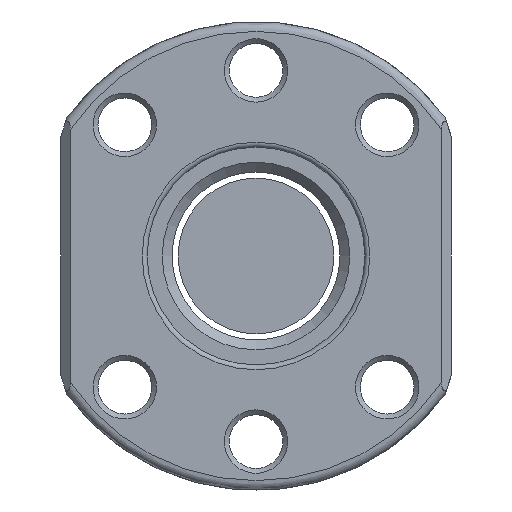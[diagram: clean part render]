
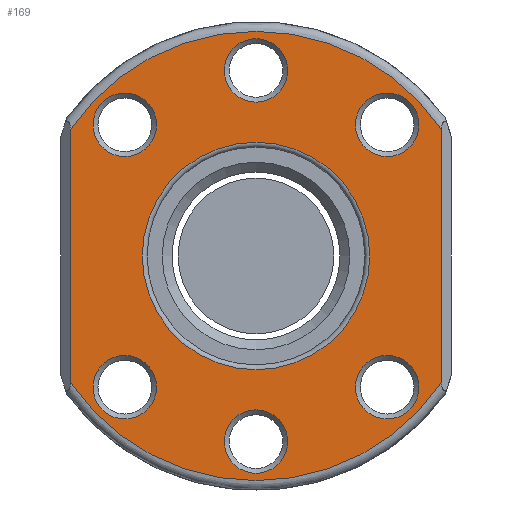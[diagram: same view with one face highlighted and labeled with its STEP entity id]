
A CAD part, front view. The second image highlights one B-rep face of the part: STEP entity #169.
In plain terms, the highlighted planar face has unit normal (0, -1, 0).
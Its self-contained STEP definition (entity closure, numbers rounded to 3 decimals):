
#62=LINE('',#1155,#86);
#63=LINE('',#1159,#87);
#86=VECTOR('',#936,1.);
#87=VECTOR('',#939,1.);
#132=PLANE('',#809);
#169=ADVANCED_FACE('',(#240,#241,#242,#243,#244,#245,#246,#247),#132,.T.);
#240=FACE_BOUND('',#320,.T.);
#241=FACE_BOUND('',#321,.T.);
#242=FACE_BOUND('',#322,.T.);
#243=FACE_BOUND('',#323,.T.);
#244=FACE_BOUND('',#324,.T.);
#245=FACE_BOUND('',#325,.T.);
#246=FACE_BOUND('',#326,.T.);
#247=FACE_BOUND('',#327,.T.);
#320=EDGE_LOOP('',(#419));
#321=EDGE_LOOP('',(#420));
#322=EDGE_LOOP('',(#421));
#323=EDGE_LOOP('',(#422));
#324=EDGE_LOOP('',(#423));
#325=EDGE_LOOP('',(#424));
#326=EDGE_LOOP('',(#425));
#327=EDGE_LOOP('',(#426,#427,#428,#429));
#419=ORIENTED_EDGE('',*,*,#662,.T.);
#420=ORIENTED_EDGE('',*,*,#663,.T.);
#421=ORIENTED_EDGE('',*,*,#664,.T.);
#422=ORIENTED_EDGE('',*,*,#665,.T.);
#423=ORIENTED_EDGE('',*,*,#666,.T.);
#424=ORIENTED_EDGE('',*,*,#667,.T.);
#425=ORIENTED_EDGE('',*,*,#668,.T.);
#426=ORIENTED_EDGE('',*,*,#669,.T.);
#427=ORIENTED_EDGE('',*,*,#670,.T.);
#428=ORIENTED_EDGE('',*,*,#671,.T.);
#429=ORIENTED_EDGE('',*,*,#672,.T.);
#591=VERTEX_POINT('',#1139);
#592=VERTEX_POINT('',#1141);
#593=VERTEX_POINT('',#1143);
#594=VERTEX_POINT('',#1145);
#595=VERTEX_POINT('',#1147);
#596=VERTEX_POINT('',#1149);
#597=VERTEX_POINT('',#1151);
#598=VERTEX_POINT('',#1153);
#599=VERTEX_POINT('',#1154);
#600=VERTEX_POINT('',#1156);
#601=VERTEX_POINT('',#1158);
#662=EDGE_CURVE('',#591,#591,#747,.T.);
#663=EDGE_CURVE('',#592,#592,#748,.T.);
#664=EDGE_CURVE('',#593,#593,#749,.T.);
#665=EDGE_CURVE('',#594,#594,#750,.T.);
#666=EDGE_CURVE('',#595,#595,#751,.T.);
#667=EDGE_CURVE('',#596,#596,#752,.T.);
#668=EDGE_CURVE('',#597,#597,#753,.T.);
#669=EDGE_CURVE('',#598,#599,#754,.T.);
#670=EDGE_CURVE('',#599,#600,#62,.T.);
#671=EDGE_CURVE('',#600,#601,#755,.T.);
#672=EDGE_CURVE('',#601,#598,#63,.T.);
#747=CIRCLE('',#800,3.25);
#748=CIRCLE('',#801,3.25);
#749=CIRCLE('',#802,3.25);
#750=CIRCLE('',#803,3.25);
#751=CIRCLE('',#804,3.25);
#752=CIRCLE('',#805,3.25);
#753=CIRCLE('',#806,11.65);
#754=CIRCLE('',#807,23.);
#755=CIRCLE('',#808,23.);
#800=AXIS2_PLACEMENT_3D('',#1138,#920,#921);
#801=AXIS2_PLACEMENT_3D('',#1140,#922,#923);
#802=AXIS2_PLACEMENT_3D('',#1142,#924,#925);
#803=AXIS2_PLACEMENT_3D('',#1144,#926,#927);
#804=AXIS2_PLACEMENT_3D('',#1146,#928,#929);
#805=AXIS2_PLACEMENT_3D('',#1148,#930,#931);
#806=AXIS2_PLACEMENT_3D('',#1150,#932,#933);
#807=AXIS2_PLACEMENT_3D('',#1152,#934,#935);
#808=AXIS2_PLACEMENT_3D('',#1157,#937,#938);
#809=AXIS2_PLACEMENT_3D('',#1160,#940,#941);
#920=DIRECTION('',(0.,1.,0.));
#921=DIRECTION('',(0.,0.,-1.));
#922=DIRECTION('',(0.,1.,0.));
#923=DIRECTION('',(0.,0.,-1.));
#924=DIRECTION('',(0.,1.,0.));
#925=DIRECTION('',(0.,0.,-1.));
#926=DIRECTION('',(0.,1.,0.));
#927=DIRECTION('',(0.,0.,-1.));
#928=DIRECTION('',(0.,1.,0.));
#929=DIRECTION('',(0.,0.,-1.));
#930=DIRECTION('',(0.,1.,0.));
#931=DIRECTION('',(0.,0.,-1.));
#932=DIRECTION('',(0.,1.,0.));
#933=DIRECTION('',(0.,0.,-1.));
#934=DIRECTION('',(0.,-1.,0.));
#935=DIRECTION('',(0.,0.,-1.));
#936=DIRECTION('',(0.,0.,-1.));
#937=DIRECTION('',(0.,-1.,0.));
#938=DIRECTION('',(0.,0.,-1.));
#939=DIRECTION('',(0.,0.,1.));
#940=DIRECTION('',(0.,-1.,0.));
#941=DIRECTION('',(0.,0.,-1.));
#1138=CARTESIAN_POINT('',(0.,0.,19.));
#1139=CARTESIAN_POINT('',(0.,0.,15.75));
#1140=CARTESIAN_POINT('',(0.,0.,-19.));
#1141=CARTESIAN_POINT('',(0.,0.,-22.25));
#1142=CARTESIAN_POINT('',(-13.435,0.,-13.435));
#1143=CARTESIAN_POINT('',(-13.435,0.,-16.685));
#1144=CARTESIAN_POINT('',(13.435,0.,13.435));
#1145=CARTESIAN_POINT('',(13.435,0.,10.185));
#1146=CARTESIAN_POINT('',(-13.435,0.,13.435));
#1147=CARTESIAN_POINT('',(-13.435,0.,10.185));
#1148=CARTESIAN_POINT('',(13.435,0.,-13.435));
#1149=CARTESIAN_POINT('',(13.435,0.,-16.685));
#1150=CARTESIAN_POINT('',(0.,0.,0.));
#1151=CARTESIAN_POINT('',(0.,0.,-11.65));
#1152=CARTESIAN_POINT('',(0.,0.,0.));
#1153=CARTESIAN_POINT('',(19.,0.,12.961));
#1154=CARTESIAN_POINT('',(-19.,0.,12.961));
#1155=CARTESIAN_POINT('',(-19.,0.,0.));
#1156=CARTESIAN_POINT('',(-19.,0.,-12.961));
#1157=CARTESIAN_POINT('',(0.,0.,0.));
#1158=CARTESIAN_POINT('',(19.,0.,-12.961));
#1159=CARTESIAN_POINT('',(19.,0.,0.));
#1160=CARTESIAN_POINT('',(0.,0.,0.));
